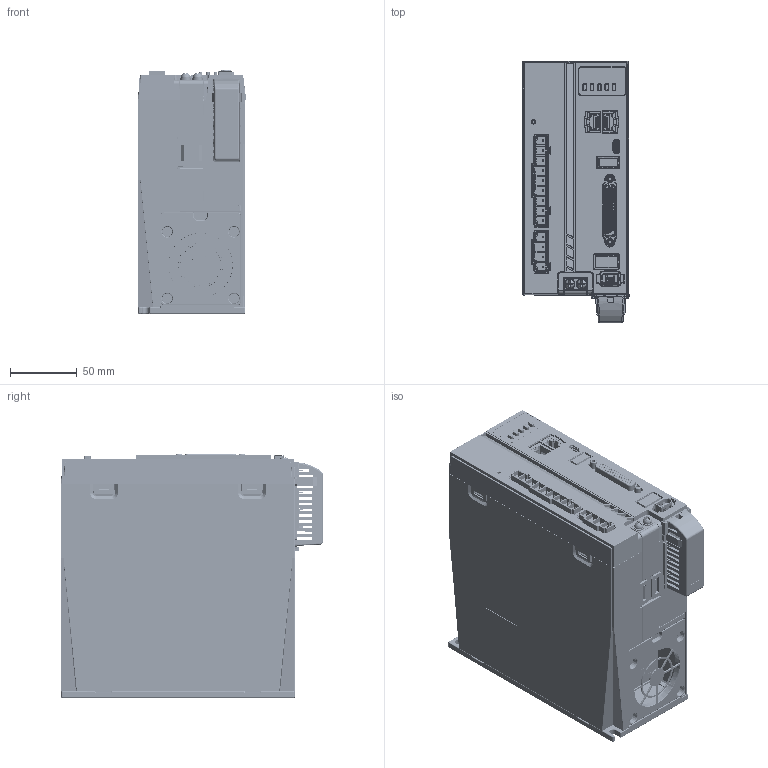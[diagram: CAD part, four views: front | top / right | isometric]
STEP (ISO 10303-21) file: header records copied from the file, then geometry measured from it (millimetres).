
FILE_DESCRIPTION((''),'2;1');
FILE_NAME('L7P_3KT_FK_ASM','2023-05-29T',('Administrator'),(''),'PRO/ENGINEER BY PARAMETRIC TECHNOLOGY CORPORATION, 2010280','PRO/ENGINEER BY PARAMETRIC TECHNOLOGY CORPORATION, 2010280','');
FILE_SCHEMA(('CONFIG_CONTROL_DESIGN','SHAPE_APPEARANCE_LAYERS_GROUPS'));
Products named in the file (35): M4X10_GB818_1_1_1_1; D4_GB9074_26_1_1_1_1; D4_GB9074_24_1_1_1_1; M4X10_GB9074_4_ASM_1_ASM_1_ASM__ASM; PCB_RIGHT_1_1_1; PCB_R_6; RJ45_2X1__1_1; FUS606_REF_1; C-2-5748482-5-A-3D_1_1; C-5788516-1-A-3D_Z_1; PCB_RIGHT_L7P_3KT_ASM_8_ASM_ASM_ASM; PCB_L8_2K_4; 9EDGRC_7_5_09P_1000A_2_1; 9EDGRC_7_5_04P_1000A_2_1; TR-27X33-1_2_1; TR-27X33-2_2_1; TR-27X33-ALL_ASM_1_ASM_1_ASM_AS_ASM; TR-27X33-ALL_ASM_ASM_1_ASM_ASM_ASM; PCB_POWER_L8_2K_ASM_3_ASM_ASM_ASM; PCB_ASM_18_3000_ASM_1_ASM_3_ASM_ASM; DB_L7_2000_1_4; L7-2000_Y_6; L7-2000_Z_1; GB_FAN_2_3; QWA_3_1; AWQ1_2_1; ASS_ASM_2_ASM_1_ASM_ASM_ASM; YKL_2; AJ_190117_____1_1; L7P_3KT_ASM_28_ASM_ASM_ASM; MANIFOLD_SOLID_BREP_849; ADMI2D700301E40O_ASM_ASM; L7P-3000T-V1_4-20230202_ASM_ASM; L7P_3KT_ASM_ASM_ASM; L7P_3KT_FK_ASM
Assembly tree (36 placements, depth 8):
  L7P_3KT_FK_ASM
    L7P_3KT_ASM_ASM_ASM
      L7P_3KT_ASM_28_ASM_ASM_ASM
        M4X10_GB9074_4_ASM_1_ASM_1_ASM__ASM  x2
          M4X10_GB818_1_1_1_1
          D4_GB9074_26_1_1_1_1
          D4_GB9074_24_1_1_1_1
        PCB_ASM_18_3000_ASM_1_ASM_3_ASM_ASM
          PCB_RIGHT_L7P_3KT_ASM_8_ASM_ASM_ASM
            PCB_RIGHT_1_1_1
            PCB_R_6
            RJ45_2X1__1_1
            FUS606_REF_1
            C-2-5748482-5-A-3D_1_1
            C-5788516-1-A-3D_Z_1
          PCB_POWER_L8_2K_ASM_3_ASM_ASM_ASM
            PCB_L8_2K_4
            9EDGRC_7_5_09P_1000A_2_1
            9EDGRC_7_5_04P_1000A_2_1
            TR-27X33-ALL_ASM_ASM_1_ASM_ASM_ASM
              TR-27X33-ALL_ASM_1_ASM_1_ASM_AS_ASM
                TR-27X33-1_2_1  x2
                TR-27X33-2_2_1
        DB_L7_2000_1_4
        L7-2000_Y_6
        L7-2000_Z_1
        GB_FAN_2_3
        ASS_ASM_2_ASM_1_ASM_ASM_ASM
          QWA_3_1
          AWQ1_2_1
        YKL_2
        AJ_190117_____1_1
      L7P-3000T-V1_4-20230202_ASM_ASM
        ADMI2D700301E40O_ASM_ASM
          MANIFOLD_SOLID_BREP_849
Bounding box: 80.59 x 196 x 182.5 mm (x, y, z)
Volume: 625698.6 mm3; surface area: 466448.7 mm2
Topology: 26 solids, 55 shells, 7901 faces, 21965 edges, 14199 vertices
Faces by surface type: plane 5235, cylinder 1590, cone 567, torus 227, sphere 146, bspline 134, extrusion 2
Entity records: 310212 total; most frequent: CARTESIAN_POINT 53322, ORIENTED_EDGE 42959, DIRECTION 40746, EDGE_CURVE 21615, VECTOR 16060, LINE 16058, VERTEX_POINT 14061, AXIS2_PLACEMENT_3D 12343
